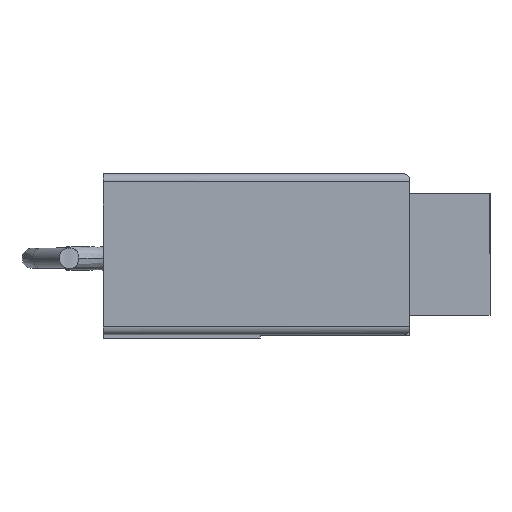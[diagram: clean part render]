
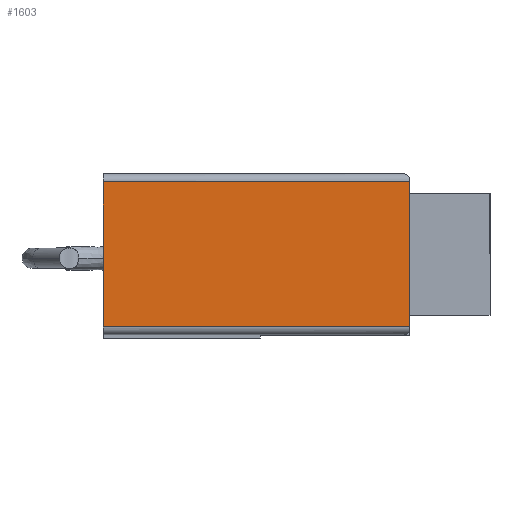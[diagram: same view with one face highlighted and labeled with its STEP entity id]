
A CAD part, top view. The second image highlights one B-rep face of the part: STEP entity #1603.
In plain terms, the highlighted planar face has unit normal (0, 0, 1).
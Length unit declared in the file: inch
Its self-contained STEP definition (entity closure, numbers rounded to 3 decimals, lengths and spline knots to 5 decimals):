
#154 = EDGE_CURVE ( 'NONE', #472, #982, #422, .T. ) ;
#171 = CARTESIAN_POINT ( 'NONE',  ( 1.88, 0.94, 0. ) ) ;
#177 = CARTESIAN_POINT ( 'NONE',  ( 1.88, 0.495, 0. ) ) ;
#216 = EDGE_CURVE ( 'NONE', #1319, #311, #1193, .T. ) ;
#311 = VERTEX_POINT ( 'NONE', #637 ) ;
#397 = LINE ( 'NONE', #177, #841 ) ;
#422 = LINE ( 'NONE', #1935, #2161 ) ;
#432 = DIRECTION ( 'NONE',  ( -1., 0., 0. ) ) ;
#439 = ORIENTED_EDGE ( 'NONE', *, *, #1143, .F. ) ;
#472 = VERTEX_POINT ( 'NONE', #737 ) ;
#534 = FACE_OUTER_BOUND ( 'NONE', #1116, .T. ) ;
#593 = LINE ( 'NONE', #1692, #1432 ) ;
#637 = CARTESIAN_POINT ( 'NONE',  ( 0., 0.94, 0. ) ) ;
#737 = CARTESIAN_POINT ( 'NONE',  ( 1.88, 0.05, 0. ) ) ;
#822 = CARTESIAN_POINT ( 'NONE',  ( 0., 0.05, 0. ) ) ;
#841 = VECTOR ( 'NONE', #1868, 39.37008 ) ;
#917 = DIRECTION ( 'NONE',  ( -1., 0., 0. ) ) ;
#935 = CARTESIAN_POINT ( 'NONE',  ( 0.94, 0.94, 0. ) ) ;
#982 = VERTEX_POINT ( 'NONE', #822 ) ;
#1058 = ORIENTED_EDGE ( 'NONE', *, *, #154, .F. ) ;
#1088 = PLANE ( 'NONE',  #1660 ) ;
#1116 = EDGE_LOOP ( 'NONE', ( #1058, #2128, #1531, #439 ) ) ;
#1143 = EDGE_CURVE ( 'NONE', #982, #311, #593, .T. ) ;
#1193 = LINE ( 'NONE', #935, #1659 ) ;
#1319 = VERTEX_POINT ( 'NONE', #171 ) ;
#1363 = DIRECTION ( 'NONE',  ( 0., 1., 0. ) ) ;
#1432 = VECTOR ( 'NONE', #1363, 39.37008 ) ;
#1442 = DIRECTION ( 'NONE',  ( 0., 0., -1. ) ) ;
#1531 = ORIENTED_EDGE ( 'NONE', *, *, #216, .T. ) ;
#1603 = ADVANCED_FACE ( 'NONE', ( #534 ), #1088, .F. ) ;
#1618 = DIRECTION ( 'NONE',  ( -1., 0., 0. ) ) ;
#1659 = VECTOR ( 'NONE', #1618, 39.37008 ) ;
#1660 = AXIS2_PLACEMENT_3D ( 'NONE', #2084, #1442, #432 ) ;
#1692 = CARTESIAN_POINT ( 'NONE',  ( 0., 0.485, 0. ) ) ;
#1868 = DIRECTION ( 'NONE',  ( 0., -1., 0. ) ) ;
#1935 = CARTESIAN_POINT ( 'NONE',  ( 0.94, 0.05, 0. ) ) ;
#1945 = EDGE_CURVE ( 'NONE', #1319, #472, #397, .T. ) ;
#2084 = CARTESIAN_POINT ( 'NONE',  ( 1.88, 0.05, 0. ) ) ;
#2128 = ORIENTED_EDGE ( 'NONE', *, *, #1945, .F. ) ;
#2161 = VECTOR ( 'NONE', #917, 39.37008 ) ;
